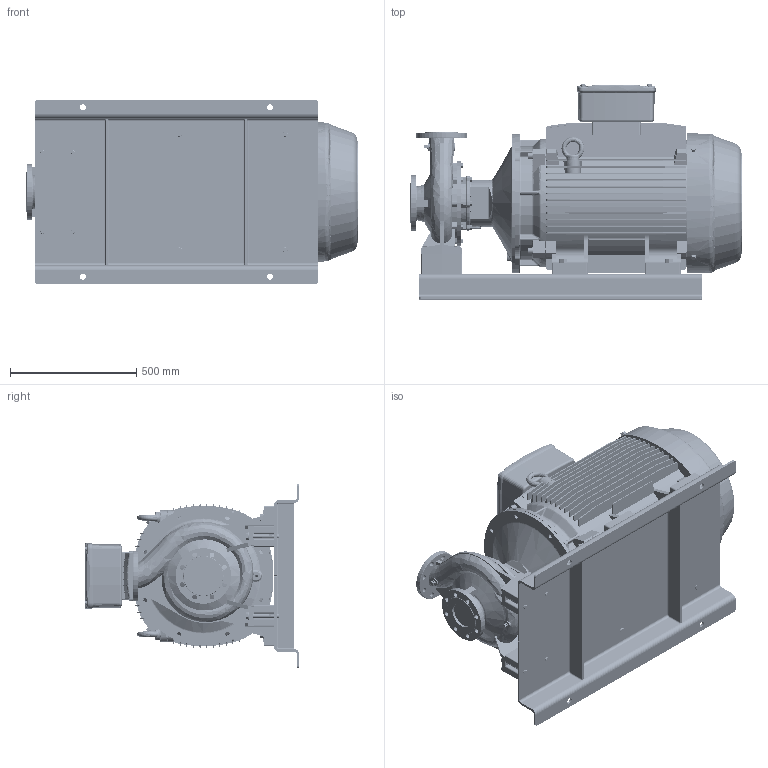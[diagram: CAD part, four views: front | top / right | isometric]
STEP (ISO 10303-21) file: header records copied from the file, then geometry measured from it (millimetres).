
FILE_DESCRIPTION (( 'STEP AP214' ), '1' );
FILE_NAME ('GSD2 80-250_90 & 110_(280SM)_W21_BP.STEP', '2024-08-02T05:28:10', ( '' ), ( '' ), 'SwSTEP 2.0', 'SolidWorks 2019', '' );
FILE_SCHEMA (( 'AUTOMOTIVE_DESIGN' ));
Length unit declared in the file: millimetre
Products named in the file (18): Parametric bolt and washer_SFT-A387B; 80-250-280S_M_______; CGS11-5321_2_3_4_5_CGS11-5322; Parametric bolt and washer_SFT-A411B; Parametric bolt_SFT-A387B; Parametric Flat Washer_M20; N9S4 GSDA-946 F1-1832978-00; CGS11-5321_2_3_4_5_CGS11-5324; GSD2  80-250_90 & 110_(280SM)_W21_BP; Parametric bolt_SFT-A411B; 280S_M2P IE3_W21T_B35; Parametric Flat Washer_M16
Assembly tree (33 placements, depth 3):
  GSD2  80-250_90 & 110_(280SM)_W21_BP
    80-250-280S_M_______
    280S_M2P IE3_W21T_B35
    N9S4 GSDA-946 F1-1832978-00
    CGS11-5321_2_3_4_5_CGS11-5324  x2
    CGS11-5321_2_3_4_5_CGS11-5322  x4
    Parametric bolt and washer_SFT-A387B
      Parametric bolt_SFT-A387B
      Parametric Flat Washer_M16
    Parametric bolt and washer_SFT-A387B
      Parametric bolt_SFT-A387B
      Parametric Flat Washer_M16
    Parametric bolt and washer_SFT-A387B
      Parametric bolt_SFT-A387B
      Parametric Flat Washer_M16
    Parametric bolt and washer_SFT-A387B
      Parametric bolt_SFT-A387B
      Parametric Flat Washer_M16
    Parametric bolt and washer_SFT-A411B
      Parametric bolt_SFT-A411B
      Parametric Flat Washer_M20
    Parametric bolt and washer_SFT-A411B
      Parametric bolt_SFT-A411B
      Parametric Flat Washer_M20
    Parametric bolt and washer_SFT-A411B
      Parametric bolt_SFT-A411B
      Parametric Flat Washer_M20
    Parametric bolt and washer_SFT-A411B
      Parametric bolt_SFT-A411B
      Parametric Flat Washer_M20
Bounding box: 1313 x 849.6 x 730 mm (x, y, z)
Volume: 238577294.1 mm3; surface area: 8532877 mm2
Topology: 33 solids, 40 shells, 4202 faces, 11078 edges, 7069 vertices
Faces by surface type: plane 1754, cylinder 1383, cone 511, torus 289, bspline 235, sphere 30
Entity records: 158312 total; most frequent: CARTESIAN_POINT 68872, ORIENTED_EDGE 19286, DIRECTION 18061, EDGE_CURVE 9643, AXIS2_PLACEMENT_3D 6689, VERTEX_POINT 6146, LINE 4683, VECTOR 4683
